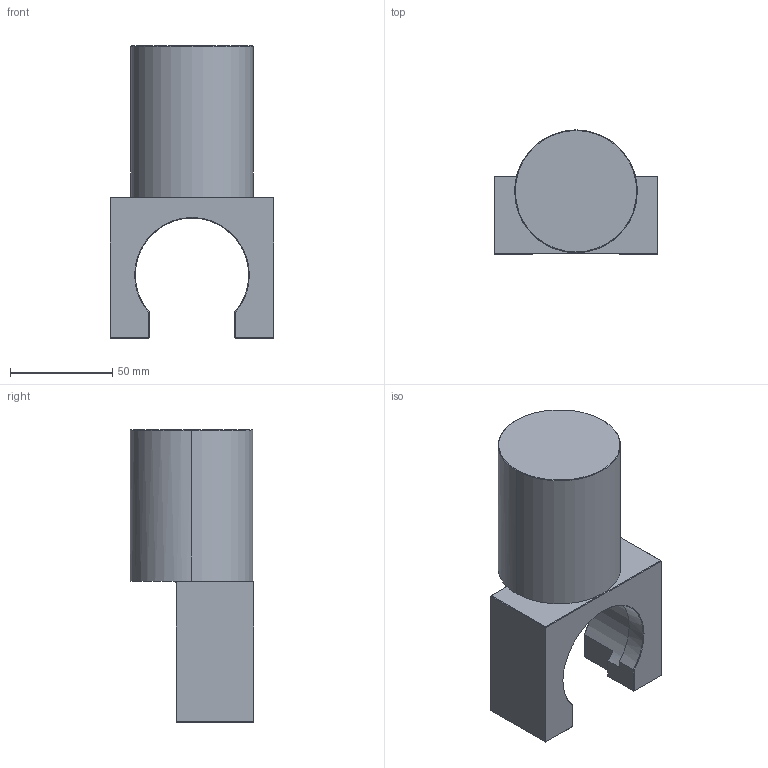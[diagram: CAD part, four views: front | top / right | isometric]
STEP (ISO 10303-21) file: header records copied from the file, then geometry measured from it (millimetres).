
FILE_DESCRIPTION (( 'STEP AP203' ), '1' );
FILE_NAME ('Swivel bracket BE33 041J004328.STEP', '2009-10-15T06:15:53', ( 'HP' ), ( '' ), 'SwSTEP 2.0', 'SolidWorks 2008', '' );
FILE_SCHEMA (( 'CONFIG_CONTROL_DESIGN' ));
Length unit declared in the file: millimetre
Products named in the file (2): Swivel bracket BE33 041J004328; 300012
Assembly tree (1 placements, depth 2):
  Swivel bracket BE33 041J004328
    300012
Bounding box: 80 x 60.5 x 143 mm (x, y, z)
Volume: 306883.5 mm3; surface area: 36961.5 mm2
Topology: 1 solids, 1 shells, 52 faces, 123 edges, 73 vertices
Faces by surface type: plane 39, cone 7, cylinder 6
Entity records: 1666 total; most frequent: CARTESIAN_POINT 286, DIRECTION 250, ORIENTED_EDGE 246, EDGE_CURVE 123, LINE 92, VECTOR 92, AXIS2_PLACEMENT_3D 79, VERTEX_POINT 73
